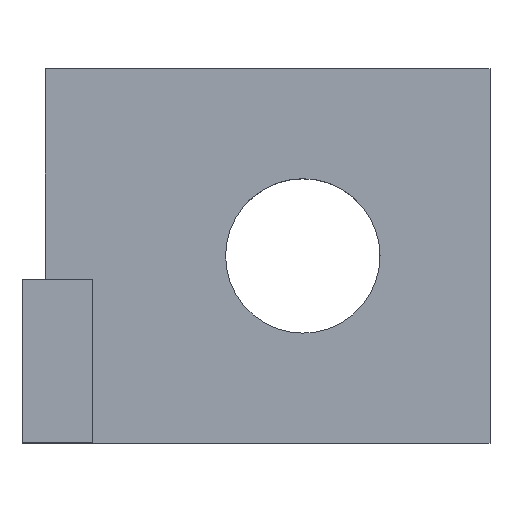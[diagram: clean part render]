
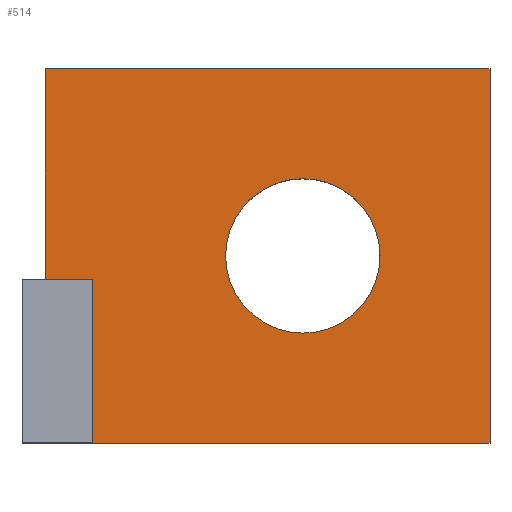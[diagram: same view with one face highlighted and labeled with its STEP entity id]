
A CAD part, top view. The second image highlights one B-rep face of the part: STEP entity #514.
In plain terms, the highlighted planar face has unit normal (0, 0, 1).
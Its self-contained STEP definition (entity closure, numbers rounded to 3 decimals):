
#32 = PLANE('',#33);
#33 = AXIS2_PLACEMENT_3D('',#34,#35,#36);
#34 = CARTESIAN_POINT('',(0.5,0.,0.));
#35 = DIRECTION('',(1.,0.,-0.));
#36 = DIRECTION('',(0.,0.,1.));
#44 = PLANE('',#45);
#45 = AXIS2_PLACEMENT_3D('',#46,#47,#48);
#46 = CARTESIAN_POINT('',(0.5,0.,0.));
#47 = DIRECTION('',(-0.,1.,0.));
#48 = DIRECTION('',(0.,0.,1.));
#85 = VERTEX_POINT('',#86);
#86 = CARTESIAN_POINT('',(0.5,8.,2.4));
#100 = PLANE('',#101);
#101 = AXIS2_PLACEMENT_3D('',#102,#103,#104);
#102 = CARTESIAN_POINT('',(0.5,8.,0.));
#103 = DIRECTION('',(-0.,1.,0.));
#104 = DIRECTION('',(0.,0.,1.));
#112 = EDGE_CURVE('',#113,#85,#115,.T.);
#113 = VERTEX_POINT('',#114);
#114 = CARTESIAN_POINT('',(0.5,3.5,2.4));
#115 = SURFACE_CURVE('',#116,(#120,#127),.PCURVE_S1.);
#116 = LINE('',#117,#118);
#117 = CARTESIAN_POINT('',(0.5,0.,2.4));
#118 = VECTOR('',#119,1.);
#119 = DIRECTION('',(-0.,1.,0.));
#120 = PCURVE('',#32,#121);
#121 = DEFINITIONAL_REPRESENTATION('',(#122),#126);
#122 = LINE('',#123,#124);
#123 = CARTESIAN_POINT('',(2.4,0.));
#124 = VECTOR('',#125,1.);
#125 = DIRECTION('',(0.,-1.));
#126 = ( GEOMETRIC_REPRESENTATION_CONTEXT(2) 
PARAMETRIC_REPRESENTATION_CONTEXT() REPRESENTATION_CONTEXT('2D SPACE',''
  ) );
#127 = PCURVE('',#128,#133);
#128 = PLANE('',#129);
#129 = AXIS2_PLACEMENT_3D('',#130,#131,#132);
#130 = CARTESIAN_POINT('',(0.5,0.,2.4));
#131 = DIRECTION('',(0.,0.,1.));
#132 = DIRECTION('',(1.,0.,-0.));
#133 = DEFINITIONAL_REPRESENTATION('',(#134),#138);
#134 = LINE('',#135,#136);
#135 = CARTESIAN_POINT('',(0.,0.));
#136 = VECTOR('',#137,1.);
#137 = DIRECTION('',(0.,1.));
#138 = ( GEOMETRIC_REPRESENTATION_CONTEXT(2) 
PARAMETRIC_REPRESENTATION_CONTEXT() REPRESENTATION_CONTEXT('2D SPACE',''
  ) );
#155 = PLANE('',#156);
#156 = AXIS2_PLACEMENT_3D('',#157,#158,#159);
#157 = CARTESIAN_POINT('',(0.,3.5,2.3));
#158 = DIRECTION('',(-0.,1.,0.));
#159 = DIRECTION('',(0.,0.,1.));
#196 = VERTEX_POINT('',#197);
#197 = CARTESIAN_POINT('',(10.,0.,2.4));
#211 = PLANE('',#212);
#212 = AXIS2_PLACEMENT_3D('',#213,#214,#215);
#213 = CARTESIAN_POINT('',(10.,0.,0.));
#214 = DIRECTION('',(1.,0.,-0.));
#215 = DIRECTION('',(0.,0.,1.));
#325 = VERTEX_POINT('',#326);
#326 = CARTESIAN_POINT('',(1.5,0.,2.4));
#340 = PLANE('',#341);
#341 = AXIS2_PLACEMENT_3D('',#342,#343,#344);
#342 = CARTESIAN_POINT('',(1.5,0.,2.3));
#343 = DIRECTION('',(1.,0.,-0.));
#344 = DIRECTION('',(0.,0.,1.));
#352 = EDGE_CURVE('',#325,#196,#353,.T.);
#353 = SURFACE_CURVE('',#354,(#358,#365),.PCURVE_S1.);
#354 = LINE('',#355,#356);
#355 = CARTESIAN_POINT('',(0.5,0.,2.4));
#356 = VECTOR('',#357,1.);
#357 = DIRECTION('',(1.,0.,-0.));
#358 = PCURVE('',#44,#359);
#359 = DEFINITIONAL_REPRESENTATION('',(#360),#364);
#360 = LINE('',#361,#362);
#361 = CARTESIAN_POINT('',(2.4,0.));
#362 = VECTOR('',#363,1.);
#363 = DIRECTION('',(0.,1.));
#364 = ( GEOMETRIC_REPRESENTATION_CONTEXT(2) 
PARAMETRIC_REPRESENTATION_CONTEXT() REPRESENTATION_CONTEXT('2D SPACE',''
  ) );
#365 = PCURVE('',#128,#366);
#366 = DEFINITIONAL_REPRESENTATION('',(#367),#371);
#367 = LINE('',#368,#369);
#368 = CARTESIAN_POINT('',(0.,0.));
#369 = VECTOR('',#370,1.);
#370 = DIRECTION('',(1.,0.));
#371 = ( GEOMETRIC_REPRESENTATION_CONTEXT(2) 
PARAMETRIC_REPRESENTATION_CONTEXT() REPRESENTATION_CONTEXT('2D SPACE',''
  ) );
#473 = VERTEX_POINT('',#474);
#474 = CARTESIAN_POINT('',(1.5,3.5,2.4));
#495 = EDGE_CURVE('',#473,#113,#496,.T.);
#496 = SURFACE_CURVE('',#497,(#501,#507),.PCURVE_S1.);
#497 = LINE('',#498,#499);
#498 = CARTESIAN_POINT('',(0.25,3.5,2.4));
#499 = VECTOR('',#500,1.);
#500 = DIRECTION('',(-1.,-0.,0.));
#501 = PCURVE('',#155,#502);
#502 = DEFINITIONAL_REPRESENTATION('',(#503),#506);
#503 = B_SPLINE_CURVE_WITH_KNOTS('',1,(#504,#505),.UNSPECIFIED.,.F.,.F.,
  (2,2),(-1.25,-0.25),.PIECEWISE_BEZIER_KNOTS.);
#504 = CARTESIAN_POINT('',(0.1,1.5));
#505 = CARTESIAN_POINT('',(0.1,0.5));
#506 = ( GEOMETRIC_REPRESENTATION_CONTEXT(2) 
PARAMETRIC_REPRESENTATION_CONTEXT() REPRESENTATION_CONTEXT('2D SPACE',''
  ) );
#507 = PCURVE('',#128,#508);
#508 = DEFINITIONAL_REPRESENTATION('',(#509),#512);
#509 = B_SPLINE_CURVE_WITH_KNOTS('',1,(#510,#511),.UNSPECIFIED.,.F.,.F.,
  (2,2),(-1.25,-0.25),.PIECEWISE_BEZIER_KNOTS.);
#510 = CARTESIAN_POINT('',(1.,3.5));
#511 = CARTESIAN_POINT('',(0.,3.5));
#512 = ( GEOMETRIC_REPRESENTATION_CONTEXT(2) 
PARAMETRIC_REPRESENTATION_CONTEXT() REPRESENTATION_CONTEXT('2D SPACE',''
  ) );
#514 = ADVANCED_FACE('',(#515,#583),#128,.T.);
#515 = FACE_BOUND('',#516,.T.);
#516 = EDGE_LOOP('',(#517,#518,#519,#538,#539,#562));
#517 = ORIENTED_EDGE('',*,*,#112,.F.);
#518 = ORIENTED_EDGE('',*,*,#495,.F.);
#519 = ORIENTED_EDGE('',*,*,#520,.F.);
#520 = EDGE_CURVE('',#325,#473,#521,.T.);
#521 = SURFACE_CURVE('',#522,(#526,#532),.PCURVE_S1.);
#522 = LINE('',#523,#524);
#523 = CARTESIAN_POINT('',(1.5,0.,2.4));
#524 = VECTOR('',#525,1.);
#525 = DIRECTION('',(-0.,1.,0.));
#526 = PCURVE('',#128,#527);
#527 = DEFINITIONAL_REPRESENTATION('',(#528),#531);
#528 = B_SPLINE_CURVE_WITH_KNOTS('',1,(#529,#530),.UNSPECIFIED.,.F.,.F.,
  (2,2),(0.,3.5),.PIECEWISE_BEZIER_KNOTS.);
#529 = CARTESIAN_POINT('',(1.,0.));
#530 = CARTESIAN_POINT('',(1.,3.5));
#531 = ( GEOMETRIC_REPRESENTATION_CONTEXT(2) 
PARAMETRIC_REPRESENTATION_CONTEXT() REPRESENTATION_CONTEXT('2D SPACE',''
  ) );
#532 = PCURVE('',#340,#533);
#533 = DEFINITIONAL_REPRESENTATION('',(#534),#537);
#534 = B_SPLINE_CURVE_WITH_KNOTS('',1,(#535,#536),.UNSPECIFIED.,.F.,.F.,
  (2,2),(0.,3.5),.PIECEWISE_BEZIER_KNOTS.);
#535 = CARTESIAN_POINT('',(0.1,0.));
#536 = CARTESIAN_POINT('',(0.1,-3.5));
#537 = ( GEOMETRIC_REPRESENTATION_CONTEXT(2) 
PARAMETRIC_REPRESENTATION_CONTEXT() REPRESENTATION_CONTEXT('2D SPACE',''
  ) );
#538 = ORIENTED_EDGE('',*,*,#352,.T.);
#539 = ORIENTED_EDGE('',*,*,#540,.T.);
#540 = EDGE_CURVE('',#196,#541,#543,.T.);
#541 = VERTEX_POINT('',#542);
#542 = CARTESIAN_POINT('',(10.,8.,2.4));
#543 = SURFACE_CURVE('',#544,(#548,#555),.PCURVE_S1.);
#544 = LINE('',#545,#546);
#545 = CARTESIAN_POINT('',(10.,0.,2.4));
#546 = VECTOR('',#547,1.);
#547 = DIRECTION('',(-0.,1.,0.));
#548 = PCURVE('',#128,#549);
#549 = DEFINITIONAL_REPRESENTATION('',(#550),#554);
#550 = LINE('',#551,#552);
#551 = CARTESIAN_POINT('',(9.5,0.));
#552 = VECTOR('',#553,1.);
#553 = DIRECTION('',(0.,1.));
#554 = ( GEOMETRIC_REPRESENTATION_CONTEXT(2) 
PARAMETRIC_REPRESENTATION_CONTEXT() REPRESENTATION_CONTEXT('2D SPACE',''
  ) );
#555 = PCURVE('',#211,#556);
#556 = DEFINITIONAL_REPRESENTATION('',(#557),#561);
#557 = LINE('',#558,#559);
#558 = CARTESIAN_POINT('',(2.4,0.));
#559 = VECTOR('',#560,1.);
#560 = DIRECTION('',(0.,-1.));
#561 = ( GEOMETRIC_REPRESENTATION_CONTEXT(2) 
PARAMETRIC_REPRESENTATION_CONTEXT() REPRESENTATION_CONTEXT('2D SPACE',''
  ) );
#562 = ORIENTED_EDGE('',*,*,#563,.F.);
#563 = EDGE_CURVE('',#85,#541,#564,.T.);
#564 = SURFACE_CURVE('',#565,(#569,#576),.PCURVE_S1.);
#565 = LINE('',#566,#567);
#566 = CARTESIAN_POINT('',(0.5,8.,2.4));
#567 = VECTOR('',#568,1.);
#568 = DIRECTION('',(1.,0.,-0.));
#569 = PCURVE('',#128,#570);
#570 = DEFINITIONAL_REPRESENTATION('',(#571),#575);
#571 = LINE('',#572,#573);
#572 = CARTESIAN_POINT('',(0.,8.));
#573 = VECTOR('',#574,1.);
#574 = DIRECTION('',(1.,0.));
#575 = ( GEOMETRIC_REPRESENTATION_CONTEXT(2) 
PARAMETRIC_REPRESENTATION_CONTEXT() REPRESENTATION_CONTEXT('2D SPACE',''
  ) );
#576 = PCURVE('',#100,#577);
#577 = DEFINITIONAL_REPRESENTATION('',(#578),#582);
#578 = LINE('',#579,#580);
#579 = CARTESIAN_POINT('',(2.4,0.));
#580 = VECTOR('',#581,1.);
#581 = DIRECTION('',(0.,1.));
#582 = ( GEOMETRIC_REPRESENTATION_CONTEXT(2) 
PARAMETRIC_REPRESENTATION_CONTEXT() REPRESENTATION_CONTEXT('2D SPACE',''
  ) );
#583 = FACE_BOUND('',#584,.T.);
#584 = EDGE_LOOP('',(#585));
#585 = ORIENTED_EDGE('',*,*,#586,.F.);
#586 = EDGE_CURVE('',#587,#587,#589,.T.);
#587 = VERTEX_POINT('',#588);
#588 = CARTESIAN_POINT('',(7.65,4.,2.4));
#589 = SURFACE_CURVE('',#590,(#595,#602),.PCURVE_S1.);
#590 = CIRCLE('',#591,1.65);
#591 = AXIS2_PLACEMENT_3D('',#592,#593,#594);
#592 = CARTESIAN_POINT('',(6.,4.,2.4));
#593 = DIRECTION('',(0.,0.,1.));
#594 = DIRECTION('',(1.,0.,-0.));
#595 = PCURVE('',#128,#596);
#596 = DEFINITIONAL_REPRESENTATION('',(#597),#601);
#597 = CIRCLE('',#598,1.65);
#598 = AXIS2_PLACEMENT_2D('',#599,#600);
#599 = CARTESIAN_POINT('',(5.5,4.));
#600 = DIRECTION('',(1.,0.));
#601 = ( GEOMETRIC_REPRESENTATION_CONTEXT(2) 
PARAMETRIC_REPRESENTATION_CONTEXT() REPRESENTATION_CONTEXT('2D SPACE',''
  ) );
#602 = PCURVE('',#603,#608);
#603 = CYLINDRICAL_SURFACE('',#604,1.65);
#604 = AXIS2_PLACEMENT_3D('',#605,#606,#607);
#605 = CARTESIAN_POINT('',(6.,4.,-0.1));
#606 = DIRECTION('',(0.,0.,1.));
#607 = DIRECTION('',(1.,0.,-0.));
#608 = DEFINITIONAL_REPRESENTATION('',(#609),#613);
#609 = LINE('',#610,#611);
#610 = CARTESIAN_POINT('',(0.,2.5));
#611 = VECTOR('',#612,1.);
#612 = DIRECTION('',(1.,0.));
#613 = ( GEOMETRIC_REPRESENTATION_CONTEXT(2) 
PARAMETRIC_REPRESENTATION_CONTEXT() REPRESENTATION_CONTEXT('2D SPACE',''
  ) );
